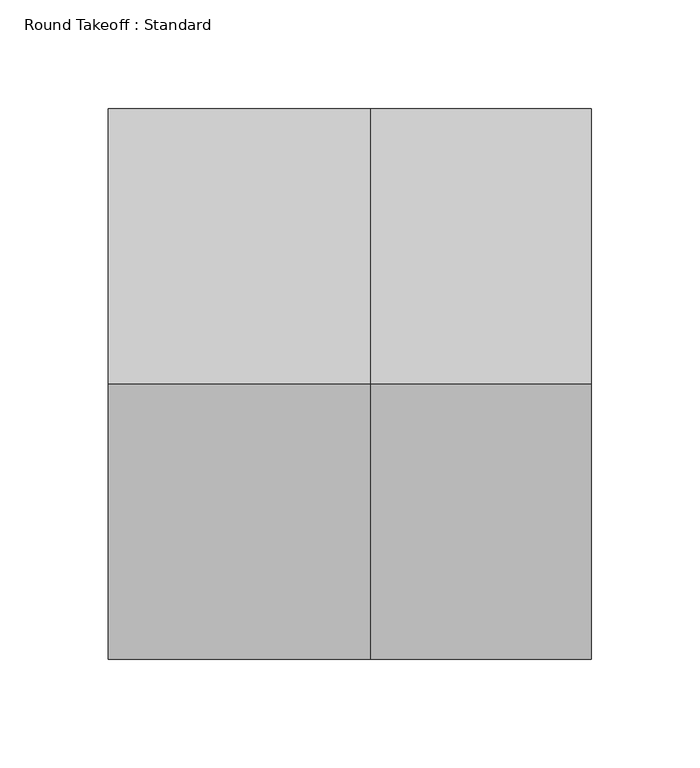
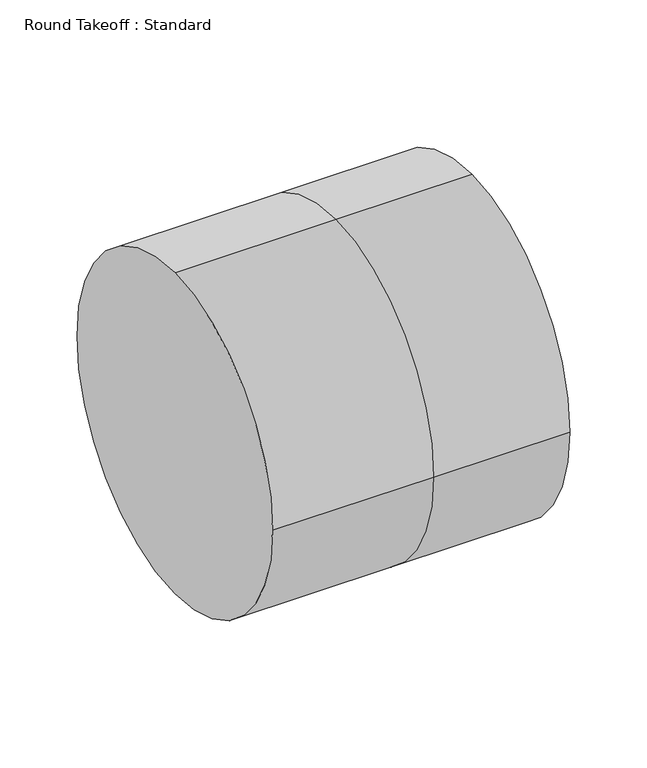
"""IFC4 building model written with IfcOpenShell, lengths in millimetres: duct fitting geometry, Round Takeoff : Standard."""

from ifc_helpers import new_model, si_unit, frame, origin, place, context, project, spatial, circle_curve, source, transform, mapped, element, save
from ifc_brep_helpers import plane_surface, cylinder_surface, advanced_brep


def round_takeoff_standard_c5a1f659(model_context):
    return source(origin(), model_context, "Body", "AdvancedBrep", [
        advanced_brep(
        [(101.6, 0.0, 127.0), (101.6, -127.0, 0.0), (101.6, 0.0, -127.0), (101.6, 127.0, 0.0), (0.0, 127.0, 0.0), (0.0, 0.0, 127.0), (0.0, 0.0, -127.0), (0.0, -127.0, 0.0), (-120.904, 0.0, 127.0), (-120.904, 127.0, 0.0), (-120.904, 0.0, -127.0), (-120.904, -127.0, 0.0)],
        [
            (0, 1, circle_curve(frame((101.6, 0.0, 0.0), z_axis=(1.0, 0.0, 0.0), x_axis=(0.0, 1.0, 0.0)), 127.0)),
            (1, 2, circle_curve(frame((101.6, 0.0, 0.0), z_axis=(1.0, 0.0, 0.0), x_axis=(0.0, 1.0, 0.0)), 127.0)),
            (2, 3, circle_curve(frame((101.6, 0.0, 0.0), z_axis=(1.0, 0.0, 0.0), x_axis=(0.0, 1.0, 0.0)), 127.0)),
            (3, 0, circle_curve(frame((101.6, 0.0, 0.0), z_axis=(1.0, 0.0, 0.0), x_axis=(0.0, 1.0, 0.0)), 127.0)),
            (3, 4),
            (4, 5, circle_curve(frame((0.0, 0.0, 0.0), z_axis=(1.0, 0.0, 0.0), x_axis=(0.0, 1.0, 0.0)), 127.0)),
            (5, 0),
            (2, 6),
            (6, 4, circle_curve(frame((0.0, 0.0, 0.0), z_axis=(1.0, 0.0, 0.0), x_axis=(0.0, 1.0, 0.0)), 127.0)),
            (1, 7),
            (7, 6, circle_curve(frame((0.0, 0.0, 0.0), z_axis=(1.0, 0.0, 0.0), x_axis=(0.0, 1.0, 0.0)), 127.0)),
            (5, 7, circle_curve(frame((0.0, 0.0, 0.0), z_axis=(1.0, 0.0, 0.0), x_axis=(0.0, 1.0, 0.0)), 127.0)),
            (8, 9, circle_curve(frame((-120.904, 0.0, 0.0), z_axis=(-1.0, 0.0, 0.0), x_axis=(0.0, 1.0, 0.0)), 127.0)),
            (9, 10, circle_curve(frame((-120.904, 0.0, 0.0), z_axis=(-1.0, 0.0, 0.0), x_axis=(0.0, 1.0, 0.0)), 127.0)),
            (10, 11, circle_curve(frame((-120.904, 0.0, 0.0), z_axis=(-1.0, 0.0, 0.0), x_axis=(0.0, 1.0, 0.0)), 127.0)),
            (11, 8, circle_curve(frame((-120.904, 0.0, 0.0), z_axis=(-1.0, 0.0, 0.0), x_axis=(0.0, 1.0, 0.0)), 127.0)),
            (8, 5),
            (4, 9),
            (6, 10),
            (7, 11),
        ],
        [
            plane_surface(frame((101.6, 0.0, 0.0), z_axis=(1.0, 0.0, 0.0), x_axis=(0.0, 0.0, 1.0))),
            cylinder_surface(frame((0.0, 0.0, 0.0), z_axis=(-1.0, 0.0, 0.0), x_axis=(0.0, 1.0, 0.0)), 127.0),
            plane_surface(frame((-120.904, 0.0, 0.0), z_axis=(-1.0, 0.0, 0.0), x_axis=(0.0, 0.0, 1.0))),
            cylinder_surface(frame((-120.904, 0.0, 0.0), z_axis=(-1.0, 0.0, 0.0), x_axis=(0.0, 1.0, 0.0)), 127.0),
        ],
        [
            (0, [[1, 2, 3, 4]]),
            (1, [[-4, 5, 6, 7]]),
            (1, [[-3, 8, 9, -5]]),
            (1, [[-2, 10, 11, -8]]),
            (1, [[-1, -7, 12, -10]]),
            (2, [[13, 14, 15, 16]]),
            (3, [[-13, 17, -6, 18]]),
            (3, [[-14, -18, -9, 19]]),
            (3, [[-15, -19, -11, 20]]),
            (3, [[-16, -20, -12, -17]]),
        ],
    ),
    ])


if __name__ == "__main__":
    model = new_model("IFC4")
    model_context = context("Model", 3, world=origin())
    ifc_project = project(units=[si_unit("LENGTHUNIT", "METRE", prefix="MILLI")], contexts=[model_context])
    site = spatial("IfcSite", under=ifc_project)
    building = spatial("IfcBuilding", under=site)
    placement = place(None, origin())
    round_takeoff_standard_shape = round_takeoff_standard_c5a1f659(model_context)
    element("IfcDuctFitting", 1, ObjectType="Round Takeoff : Standard", at=placement, inside=building, context=model_context, shape_type="MappedRepresentation", body=[
        mapped(round_takeoff_standard_shape, transform((0.0, 0.0, 0.0), x_axis=(1.0, 0.0, 0.0), y_axis=(0.0, 1.0, 0.0), z_axis=(0.0, 0.0, 1.0))),
    ])
    save(model, "model.ifc")
